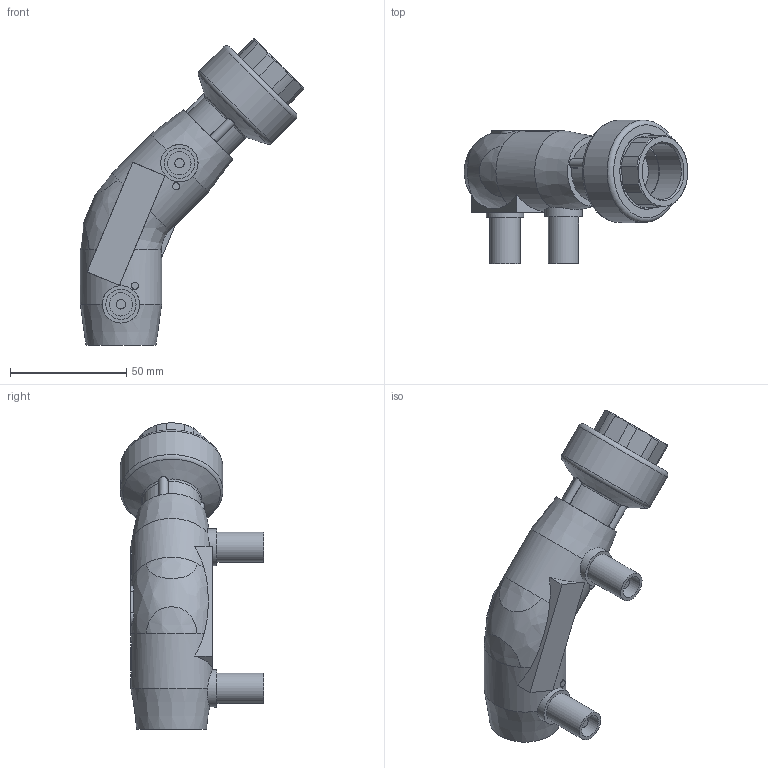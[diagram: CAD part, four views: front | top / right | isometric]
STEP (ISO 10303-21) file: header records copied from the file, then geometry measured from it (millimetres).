
FILE_DESCRIPTION(/* description */ ('Unknown'),/* implementation_level */ '2;1');
FILE_NAME(/* name */ 'GE4TFP025C',/* time_stamp */ '2021-03-02T15:20:37+01:00',/* author */ ('Unknown'),/* organization */ ('Unknown'),/* preprocessor_version */ 'ST-DEVELOPER v16.7',/* originating_system */ 'Solid Edge',/* authorisation */ 'Unknown');
FILE_SCHEMA (('AUTOMOTIVE_DESIGN {1 0 10303 214 3 1 1}'));
Length unit declared in the file: millimetre
Products named in the file (5): GE4TFP025C; GE4P025C; RTOFP025C; Parte PE 025; IOF025C
Assembly tree (4 placements, depth 3):
  GE4TFP025C
    GE4P025C
    RTOFP025C
      Parte PE 025
      IOF025C
Bounding box: 95.99 x 61.45 x 131.49 mm (x, y, z)
Volume: 88106.9 mm3; surface area: 44815.5 mm2
Topology: 3 solids, 3 shells, 557 faces, 1351 edges, 824 vertices
Faces by surface type: bspline 236, plane 135, cylinder 110, cone 41, torus 35
Full cylindrical faces by diameter (mm): 3 x2, 4 x2, 10 x2, 13 x2, 16 x2, 19 x1, 22 x2, 23.5 x3, 24.117 x1, 25 x3, 26.5 x2, 32.5 x2, 33.4 x2, 35 x2, 36 x4, 44 x1
Entity records: 21425 total; most frequent: CARTESIAN_POINT 8298, ORIENTED_EDGE 2580, DIRECTION 2118, EDGE_CURVE 1290, AXIS2_PLACEMENT_3D 970, VERTEX_POINT 807, EDGE_LOOP 631, FACE_BOUND 631
